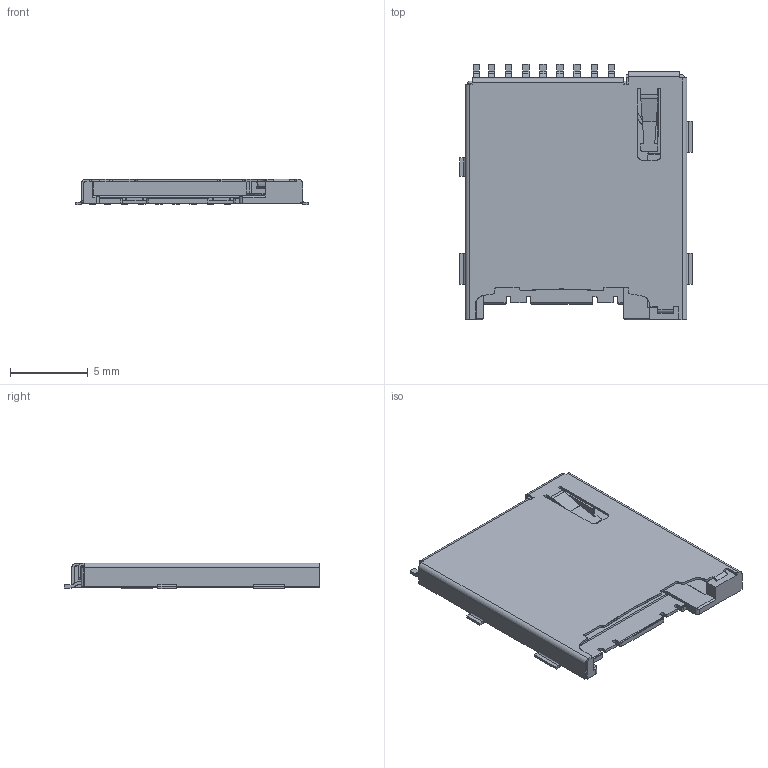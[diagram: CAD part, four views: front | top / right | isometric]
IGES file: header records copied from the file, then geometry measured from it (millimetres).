
Start section: SolidWorks IGES file using analytic representation for surfaces
Global section: file name: N:\Kamikawa_Hisako\★三次元モデル作成依頼\5138\04_5138_008_100_858+.IGS; native system: SolidWorks 2023; preprocessor: SolidWorks 2023; author: KamikawaHisako　(神河　久,,11,; organization: 0; date: 241112.104256; units: millimetre
Bounding box: 15 x 16.5 x 1.65 mm (x, y, z)
Surface area: 945.3 mm2 (no closed solid volume)
Topology: 0 solids, 0 shells, 383 faces, 2652 edges, 2650 vertices
Faces by surface type: bspline 269, revolution 114
